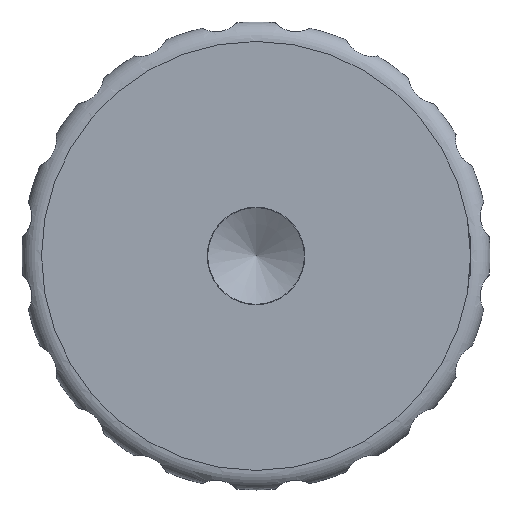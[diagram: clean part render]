
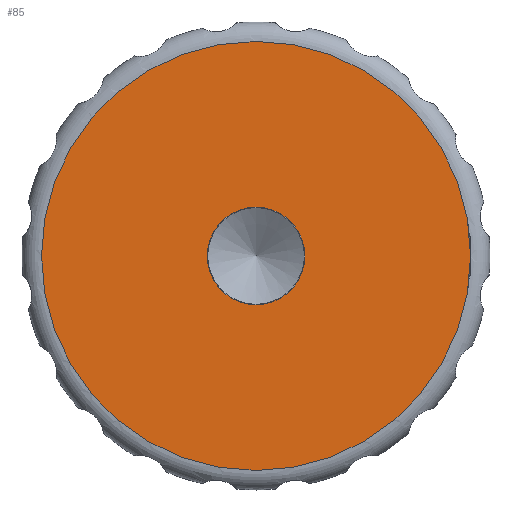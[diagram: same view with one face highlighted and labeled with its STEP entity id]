
A CAD part, left-side view. The second image highlights one B-rep face of the part: STEP entity #85.
In plain terms, the highlighted planar face has unit normal (-1, 0, 0).
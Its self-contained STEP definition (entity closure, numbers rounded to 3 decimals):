
#85 = ADVANCED_FACE( '', ( #167, #168 ), #169, .F. );
#167 = FACE_OUTER_BOUND( '', #320, .T. );
#168 = FACE_BOUND( '', #321, .T. );
#169 = PLANE( '', #322 );
#320 = EDGE_LOOP( '', ( #555 ) );
#321 = EDGE_LOOP( '', ( #556 ) );
#322 = AXIS2_PLACEMENT_3D( '', #557, #558, #559 );
#555 = ORIENTED_EDGE( '', *, *, #1067, .F. );
#556 = ORIENTED_EDGE( '', *, *, #1068, .T. );
#557 = CARTESIAN_POINT( '', ( 0., 2.5, 0. ) );
#558 = DIRECTION( '', ( 1., 0., 0. ) );
#559 = DIRECTION( '', ( 0., 0., -1. ) );
#1067 = EDGE_CURVE( '', #1298, #1298, #1299, .T. );
#1068 = EDGE_CURVE( '', #1300, #1300, #1301, .T. );
#1298 = VERTEX_POINT( '', #2090 );
#1299 = CIRCLE( '', #2091, 11. );
#1300 = VERTEX_POINT( '', #2092 );
#1301 = CIRCLE( '', #2093, 2.5 );
#2090 = CARTESIAN_POINT( '', ( 0., 0., -11. ) );
#2091 = AXIS2_PLACEMENT_3D( '', #2682, #2683, #2684 );
#2092 = CARTESIAN_POINT( '', ( 0., 0., -2.5 ) );
#2093 = AXIS2_PLACEMENT_3D( '', #2685, #2686, #2687 );
#2682 = CARTESIAN_POINT( '', ( 0., 0., 0. ) );
#2683 = DIRECTION( '', ( 1., 0., 0. ) );
#2684 = DIRECTION( '', ( 0., 0., -1. ) );
#2685 = CARTESIAN_POINT( '', ( 0., 0., 0. ) );
#2686 = DIRECTION( '', ( 1., 0., 0. ) );
#2687 = DIRECTION( '', ( 0., 0., -1. ) );
